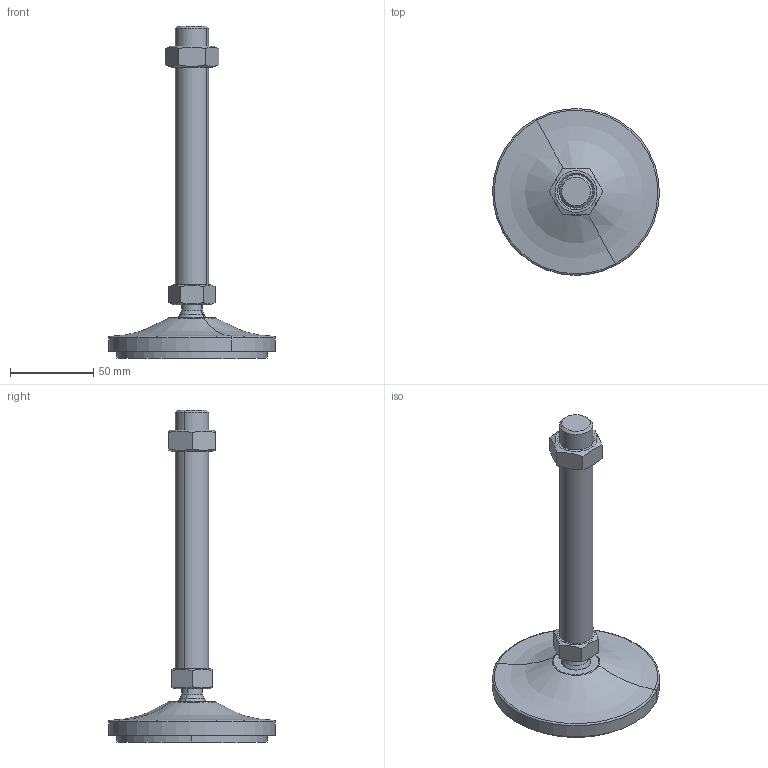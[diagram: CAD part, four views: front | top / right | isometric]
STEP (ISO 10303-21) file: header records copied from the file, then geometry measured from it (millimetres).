
FILE_DESCRIPTION(('CATIA V5 STEP Exchange'),'2;1');
FILE_NAME('C:\Users\ALI OZGUN\Desktop\alhan\saplama2\560102621AV.stp','2017-09-21T10:31:13+00:00',('none'),('none'),'CATIA Version 5 Release 21 GA (IN-10)','CATIA V5 STEP AP203','none');
FILE_SCHEMA(('CONFIG_CONTROL_DESIGN'));
Length unit declared in the file: millimetre
Products named in the file (1): 560102621AV
Bounding box: 99.97 x 99.97 x 199 mm (x, y, z)
Volume: 180635.7 mm3; surface area: 50811.3 mm2
Topology: 4 solids, 4 shells, 64 faces, 142 edges, 87 vertices
Faces by surface type: plane 22, cylinder 16, cone 16, torus 4, revolution 4, sphere 2
Entity records: 1957 total; most frequent: CARTESIAN_POINT 649, ORIENTED_EDGE 280, DIRECTION 197, EDGE_CURVE 140, AXIS2_PLACEMENT_3D 106, VERTEX_POINT 87, EDGE_LOOP 71, ADVANCED_FACE 64
